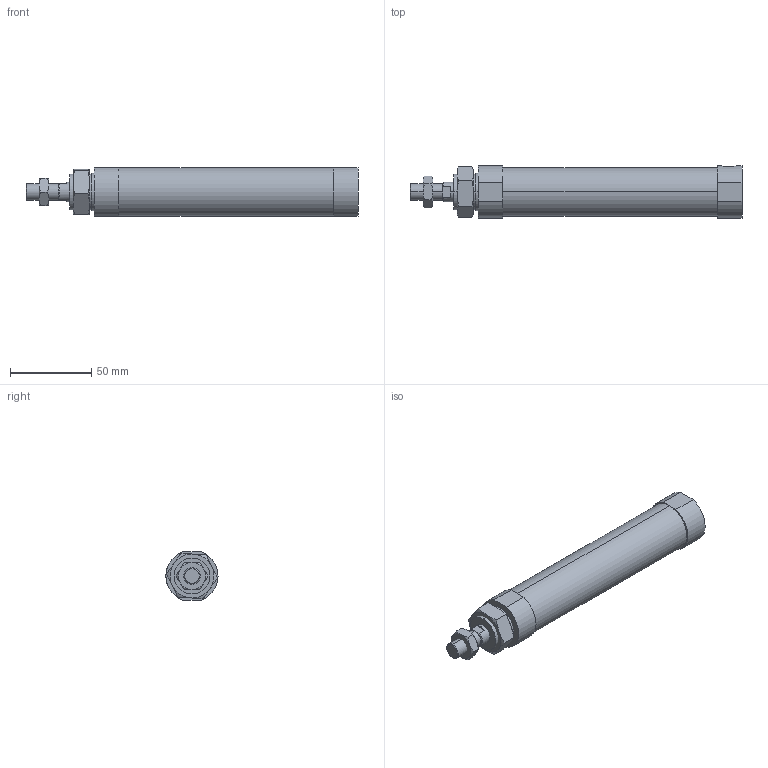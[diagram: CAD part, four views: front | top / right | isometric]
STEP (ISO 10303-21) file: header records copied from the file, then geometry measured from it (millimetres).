
FILE_DESCRIPTION (( 'STEP AP203' ), '1' );
FILE_NAME ('JGND1-25-50-N.STEP', '2016-08-04T02:19:05', ( '' ), ( '' ), 'SwSTEP 2.0', 'SolidWorks 2014', '' );
FILE_SCHEMA (( 'CONFIG_CONTROL_DESIGN' ));
Length unit declared in the file: millimetre
Products named in the file (4): J#1-25-50(P); JGND1-25-50-N
Assembly tree (3 placements, depth 2):
  JGND1-25-50-N
    J#1-25-50(P)
    (unnamed)
    (unnamed)
Bounding box: 204 x 32 x 30 mm (x, y, z)
Volume: 127953.1 mm3; surface area: 22734.8 mm2
Topology: 3 solids, 3 shells, 85 faces, 188 edges, 111 vertices
Faces by surface type: plane 35, torus 24, cylinder 20, cone 6
Entity records: 2986 total; most frequent: CARTESIAN_POINT 762, DIRECTION 384, ORIENTED_EDGE 372, EDGE_CURVE 186, AXIS2_PLACEMENT_3D 161, VERTEX_POINT 111, EDGE_LOOP 93, FACE_OUTER_BOUND 85
